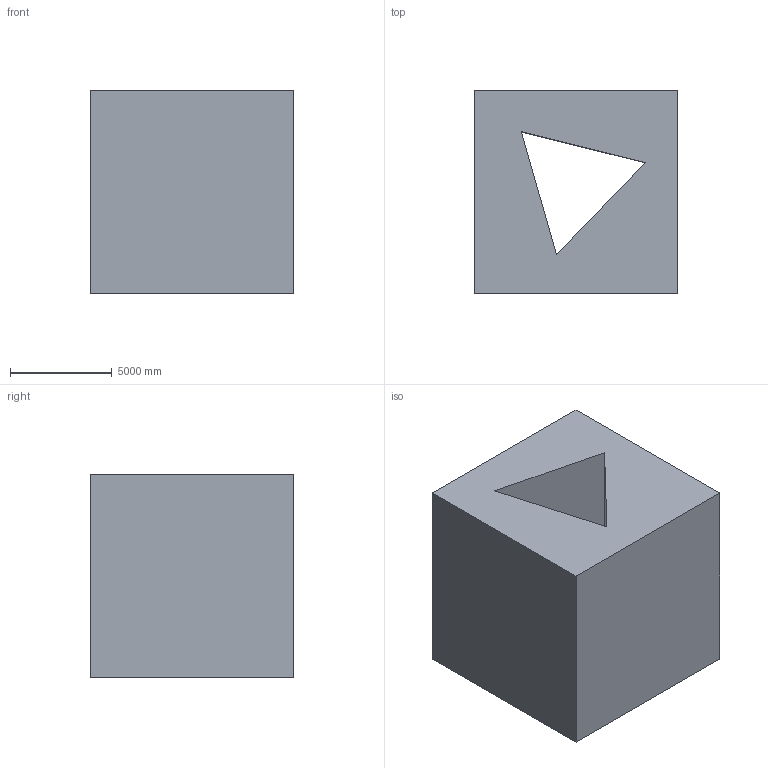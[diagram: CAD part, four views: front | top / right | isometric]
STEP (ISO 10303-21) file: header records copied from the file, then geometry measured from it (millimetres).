
FILE_DESCRIPTION (( 'STEP AP203' ), '1' );
FILE_NAME ('1012.STEP', '2022-08-18T12:25:08', ( 'user' ), ( '' ), 'SwSTEP 2.0', 'SolidWorks 2021', '' );
FILE_SCHEMA (( 'CONFIG_CONTROL_DESIGN' ));
Length unit declared in the file: centimetre
Products named in the file (1): 1012
Bounding box: 10000 x 10000 x 10000 mm (x, y, z)
Volume: 825877210471.6 mm3; surface area: 766171417.5 mm2
Topology: 1 solids, 1 shells, 13 faces, 30 edges, 20 vertices
Faces by surface type: plane 13
Entity records: 445 total; most frequent: CARTESIAN_POINT 64, ORIENTED_EDGE 60, DIRECTION 58, LINE 30, EDGE_CURVE 30, VECTOR 30, VERTEX_POINT 20, EDGE_LOOP 16
